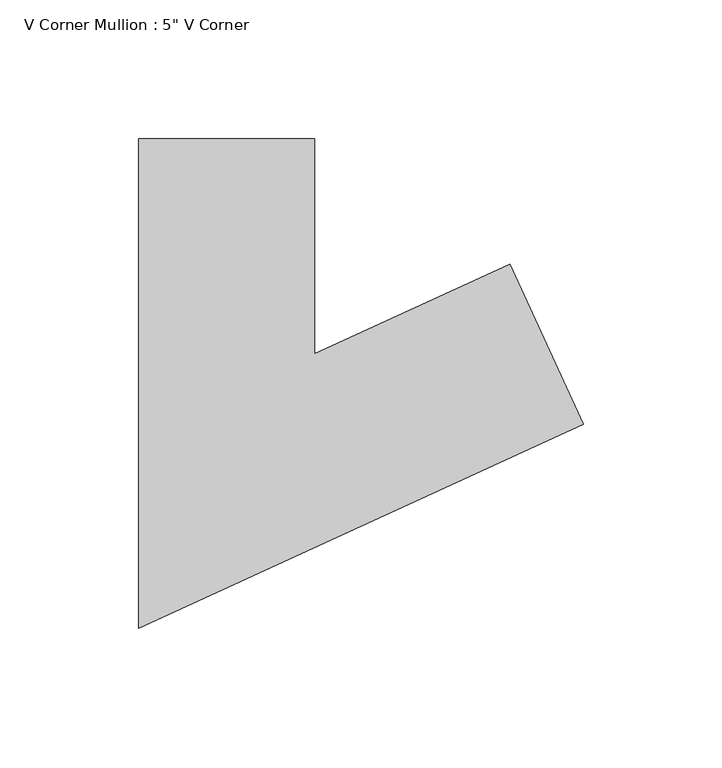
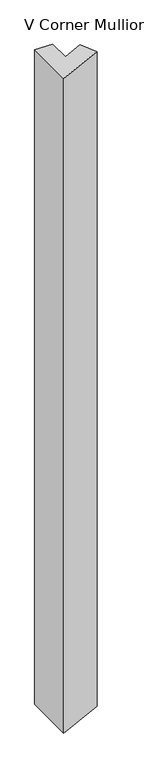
"""IFC4 building model written with IfcOpenShell, lengths in millimetres: member geometry."""

import ifcopenshell
import ifcopenshell.guid

model = None  # the IFC model being written
_history = None  # IfcOwnerHistory: only IFC2X3 demands one
_inside = {}  # id of a spatial element -> (the spatial element, [elements in it])
_under = {}  # id of a project, library or spatial element -> (it, [spatial elements below it])
_declared = {}  # id of a project -> (the project, [libraries it declares])
_typed = {}  # id of a type object -> (the type object, [elements of that type])
_made_of = {}  # id of a material, layer set ... -> (it, [elements and type objects made of it])


def new_model(schema):
    """Start an empty IFC model of exactly this schema.

    Asked for "IFC4X3", IfcOpenShell would pick the latest addendum, in which some entities
    have other attributes; the version numbers below select the first issue.
    IFC2X3 requires an IfcOwnerHistory on every rooted entity: one is made here for all.
    """
    global model, _history
    if schema == "IFC4X3":
        model = ifcopenshell.file(schema_version=(4, 3, 0, 0))
    else:
        model = ifcopenshell.file(schema=schema)
    _inside.clear()
    _under.clear()
    _declared.clear()
    _typed.clear()
    _made_of.clear()
    _history = None
    if model.schema == "IFC2X3":
        org = make("IfcOrganization", Name="unknown")
        user = make(
            "IfcPersonAndOrganization",
            ThePerson=make("IfcPerson", FamilyName="unknown"),
            TheOrganization=org,
        )
        app = make(
            "IfcApplication",
            ApplicationDeveloper=org,
            Version="unknown",
            ApplicationFullName="unknown",
            ApplicationIdentifier="unknown",
        )
        _history = make(
            "IfcOwnerHistory",
            OwningUser=user,
            OwningApplication=app,
            ChangeAction="ADDED",
            CreationDate=0,
        )
    return model


def make(cls, **values):
    """One entity of the class cls with the attributes given. An attribute that is None is left unset."""
    return model.create_entity(
        cls, **{name: value for name, value in values.items() if value is not None}
    )


def rooted(cls, **values):
    """An entity with a GlobalId (a new one), such as an element, a storey or a relation."""
    return make(cls, GlobalId=ifcopenshell.guid.new(), OwnerHistory=_history, **values)


def si_unit(unit_type, name, prefix=None):
    """IfcSIUnit, for example si_unit("LENGTHUNIT", "METRE", prefix="MILLI")."""
    return make("IfcSIUnit", UnitType=unit_type, Prefix=prefix, Name=name)


def assignment(units):
    """IfcUnitAssignment: the units of a project."""
    return None if units is None else make("IfcUnitAssignment", Units=units)


def point(xyz):
    """IfcCartesianPoint."""
    return None if xyz is None else make("IfcCartesianPoint", Coordinates=xyz)


def direction(xyz):
    """IfcDirection."""
    return None if xyz is None else make("IfcDirection", DirectionRatios=xyz)


def frame(location, z_axis=None, x_axis=None):
    """IfcAxis2Placement3D, a coordinate frame: its origin and axes. An axis left out is left unset."""
    return make(
        "IfcAxis2Placement3D",
        Location=point(location),
        Axis=direction(z_axis),
        RefDirection=direction(x_axis),
    )


def origin():
    """The frame at (0, 0, 0) with its axes left unset."""
    return frame((0.0, 0.0, 0.0))


def place(relative_to, where):
    """IfcLocalPlacement: puts the frame where relative to a parent placement (None: the world)."""
    return make(
        "IfcLocalPlacement", PlacementRelTo=relative_to, RelativePlacement=where
    )


def context(
    kind, dimensions, precision=None, world=None, true_north=None, identifier=None
):
    """IfcGeometricRepresentationContext, for example the 3D "Model" context."""
    return make(
        "IfcGeometricRepresentationContext",
        ContextIdentifier=identifier,
        ContextType=kind,
        CoordinateSpaceDimension=dimensions,
        Precision=precision,
        WorldCoordinateSystem=world,
        TrueNorth=true_north,
    )


def project(units=None, contexts=None):
    """IfcProject with its units and contexts."""
    return rooted(
        "IfcProject",
        Name="project",
        RepresentationContexts=contexts,
        UnitsInContext=assignment(units),
    )


def spatial(cls, under=None, at=None, **own):
    """A site, building, storey or space (cls), placed at a placement, below another one or the project."""
    s = rooted(cls, ObjectPlacement=at, **own)
    if under is not None:
        _under.setdefault(under.id(), (under, []))[1].append(s)
    return s


def polyline(points):
    """IfcPolyline through the points."""
    return make("IfcPolyline", Points=[point(p) for p in points])


def outline(outer, holes=None, kind="AREA"):
    """IfcArbitraryClosedProfileDef: a profile drawn as a closed curve; with holes, ...WithVoids."""
    if holes is None:
        return make("IfcArbitraryClosedProfileDef", ProfileType=kind, OuterCurve=outer)
    return make(
        "IfcArbitraryProfileDefWithVoids",
        ProfileType=kind,
        OuterCurve=outer,
        InnerCurves=holes,
    )


def extrude(swept, where, along, depth):
    """IfcExtrudedAreaSolid: the profile swept, set in the frame where, extruded along a direction by depth."""
    return make(
        "IfcExtrudedAreaSolid",
        SweptArea=swept,
        Position=where,
        ExtrudedDirection=direction(along),
        Depth=depth,
    )


def shape(context_of_items, identifier, shape_type, items):
    """IfcShapeRepresentation: the items that make up one representation, for example the "Body"."""
    return make(
        "IfcShapeRepresentation",
        ContextOfItems=context_of_items,
        RepresentationIdentifier=identifier,
        RepresentationType=shape_type,
        Items=items,
    )


def source(mapping_origin, context_of_items, identifier, shape_type, items):
    """IfcRepresentationMap: a shape defined once, which mapped items show again and again."""
    return make(
        "IfcRepresentationMap",
        MappingOrigin=mapping_origin,
        MappedRepresentation=shape(context_of_items, identifier, shape_type, items),
    )


def transform(
    local_origin,
    x_axis=None,
    y_axis=None,
    z_axis=None,
    scale=None,
    scale2=None,
    scale3=None,
    uniform=True,
):
    """IfcCartesianTransformationOperator3D, or its non-uniform kind. x_axis, y_axis, z_axis: its Axis1, 2, 3."""
    if uniform:
        return make(
            "IfcCartesianTransformationOperator3D",
            Axis1=direction(x_axis),
            Axis2=direction(y_axis),
            LocalOrigin=point(local_origin),
            Scale=scale,
            Axis3=direction(z_axis),
        )
    return make(
        "IfcCartesianTransformationOperator3DnonUniform",
        Axis1=direction(x_axis),
        Axis2=direction(y_axis),
        LocalOrigin=point(local_origin),
        Scale=scale,
        Axis3=direction(z_axis),
        Scale2=scale2,
        Scale3=scale3,
    )


def mapped(mapping_source, mapping_target):
    """IfcMappedItem: shows the shape of a source again, moved by a transform."""
    return make(
        "IfcMappedItem", MappingSource=mapping_source, MappingTarget=mapping_target
    )


def made_of(thing, what):
    """Note that an element or type object is made of a material, layer set ...; save() writes the relation."""
    if what is not None:
        _made_of.setdefault(what.id(), (what, []))[1].append(thing)
    return thing


def element(
    cls,
    number,
    at=None,
    inside=None,
    cuts=None,
    type_object=None,
    material=None,
    context=None,
    identifier="Body",
    shape_type=None,
    held_by="IfcProductDefinitionShape",
    body=None,
    shapes=None,
    **own,
):
    """One element of the class cls, such as IfcWall. Its Tag is "e" and its number.

    at: its placement. inside: the storey or other place that contains it. cuts: it is an
    opening in that element (IfcRelVoidsElement). A single representation is given by context,
    identifier, shape_type and body (its items); several are given by shapes. held_by: the class
    of the entity that holds the representations. save() writes the other relations.
    """
    e = rooted(cls, Tag="e%d" % number, ObjectPlacement=at, **own)
    if body is not None:
        shapes = [shape(context, identifier, shape_type, body)]
    if shapes is not None:
        e.Representation = make(held_by, Representations=shapes)
    if inside is not None:
        _inside.setdefault(inside.id(), (inside, []))[1].append(e)
    if cuts is not None:
        rooted(
            "IfcRelVoidsElement", RelatingBuildingElement=cuts, RelatedOpeningElement=e
        )
    if type_object is not None:
        _typed.setdefault(type_object.id(), (type_object, []))[1].append(e)
    return made_of(e, material)


def aggregate(whole, parts):
    """IfcRelAggregates: a whole, such as a stair, and the parts it consists of."""
    return rooted("IfcRelAggregates", RelatingObject=whole, RelatedObjects=parts)


def save(model, path):
    """Write the relations noted so far, then the file.

    IfcRelAggregates (storeys below a building ...), IfcRelContainedInSpatialStructure (elements
    in a storey), IfcRelDefinesByType, IfcRelAssociatesMaterial and IfcRelDeclares: one each for
    every whole, place, type object, material and project.
    """
    for whole, parts in _under.values():
        aggregate(whole, parts)
    for where, things in _inside.values():
        rooted(
            "IfcRelContainedInSpatialStructure",
            RelatedElements=things,
            RelatingStructure=where,
        )
    for kind, things in _typed.values():
        rooted("IfcRelDefinesByType", RelatedObjects=things, RelatingType=kind)
    for what, things in _made_of.values():
        rooted("IfcRelAssociatesMaterial", RelatedObjects=things, RelatingMaterial=what)
    for by, libraries in _declared.values():
        rooted("IfcRelDeclares", RelatingContext=by, RelatedDefinitions=libraries)
    model.write(path)


def member_6a741917(model_context):
    return source(origin(), model_context, "Body", "SweptSolid", [
        extrude(outline(polyline([(87.9205542, -39.5195451), (-72.5228811, -112.9476953), (-72.5228811, 63.5), (-9.0228811, 63.5), (-9.0228811, -14.0523047), (61.49523, 18.2208415), (87.9205542, -39.5195451)])), frame((0.0, 0.0, -2438.4), z_axis=(0.0, 0.0, 1.0), x_axis=(1.0, 0.0, 0.0)), (0.0, 0.0, 1.0), 2438.4),
    ])


if __name__ == "__main__":
    model = new_model("IFC4")
    model_context = context("Model", 3, world=origin())
    ifc_project = project(units=[si_unit("LENGTHUNIT", "METRE", prefix="MILLI")], contexts=[model_context])
    site = spatial("IfcSite", under=ifc_project)
    building = spatial("IfcBuilding", under=site)
    placement = place(None, origin())
    member_shape = member_6a741917(model_context)
    element("IfcMember", 1, ObjectType="V Corner Mullion : 5\" V Corner", at=placement, inside=building, context=model_context, shape_type="MappedRepresentation", body=[
        mapped(member_shape, transform((0.0, 0.0, 0.0), x_axis=(1.0, 0.0, 0.0), y_axis=(0.0, 1.0, 0.0), z_axis=(0.0, 0.0, 1.0))),
    ])
    save(model, "model.ifc")
